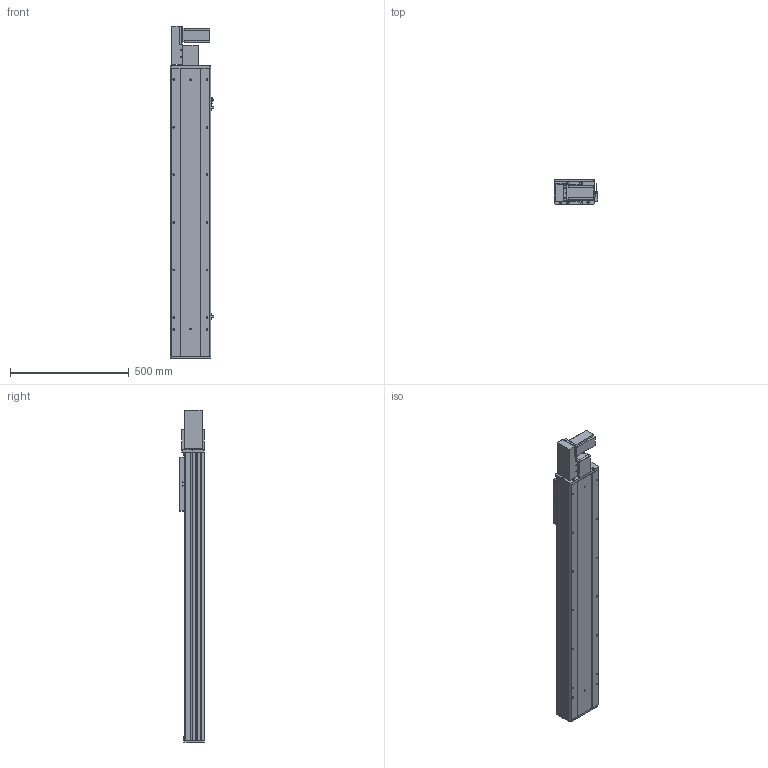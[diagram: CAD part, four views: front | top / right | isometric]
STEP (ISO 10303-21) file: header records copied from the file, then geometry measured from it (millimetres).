
FILE_DESCRIPTION (( 'STEP AP203' ), '1' );
FILE_NAME ('Y170CB-D105-S900-BL-P400W.STEP', '2020-02-20T01:14:29', ( '微软用户' ), ( '微软中国' ), 'SwSTEP 2.0', 'SolidWorks 2017', '' );
FILE_SCHEMA (( 'CONFIG_CONTROL_DESIGN' ));
Length unit declared in the file: millimetre
Products named in the file (18): --70CB --喘謫眊楊擘啣-; 70B喘謫眊----; 70CB-耜裔啣-; Y1埴倛裔; 70C--詩湍揤踡え-; B-源倛裔啣; Y170CB-D105-S900-BL-P400W; 70CB--耜裔; 17B-耜蚾蟀諉啣----; 70C-雄赽釱-奻-; 0B-萇儂楊擘啣; 0C--雄赽釱俋欶-170; san松下电机400不带刹车----; 70CB-詩湍--; Y70俋欶BR----; Y100-135俋离換覜ん--; 70CB-掛极-; Y170CB-陔俋离換覜結え---
Assembly tree (21 placements, depth 2):
  Y170CB-D105-S900-BL-P400W
    B-源倛裔啣
    17B-耜蚾蟀諉啣----
    0B-萇儂楊擘啣
    san松下电机400不带刹车----
    Y70俋欶BR----
    70CB-掛极-
    --70CB --喘謫眊楊擘啣-
    70CB-耜裔啣-  x2
    70C--詩湍揤踡え-  x2
    70CB--耜裔
    70C-雄赽釱-奻-
    0C--雄赽釱俋欶-170
    70CB-詩湍--
    Y100-135俋离換覜ん--  x3
    Y170CB-陔俋离換覜結え---
    70B喘謫眊----
    Y1埴倛裔
Bounding box: 183.5 x 107 x 1397 mm (x, y, z)
Volume: 6143251.9 mm3; surface area: 2198044.2 mm2
Topology: 21 solids, 21 shells, 1007 faces, 2693 edges, 1786 vertices
Faces by surface type: cylinder 519, plane 464, cone 24
Entity records: 32028 total; most frequent: CARTESIAN_POINT 5856, DIRECTION 5206, ORIENTED_EDGE 4868, EDGE_CURVE 2434, AXIS2_PLACEMENT_3D 1904, VERTEX_POINT 1616, VECTOR 1398, LINE 1398
